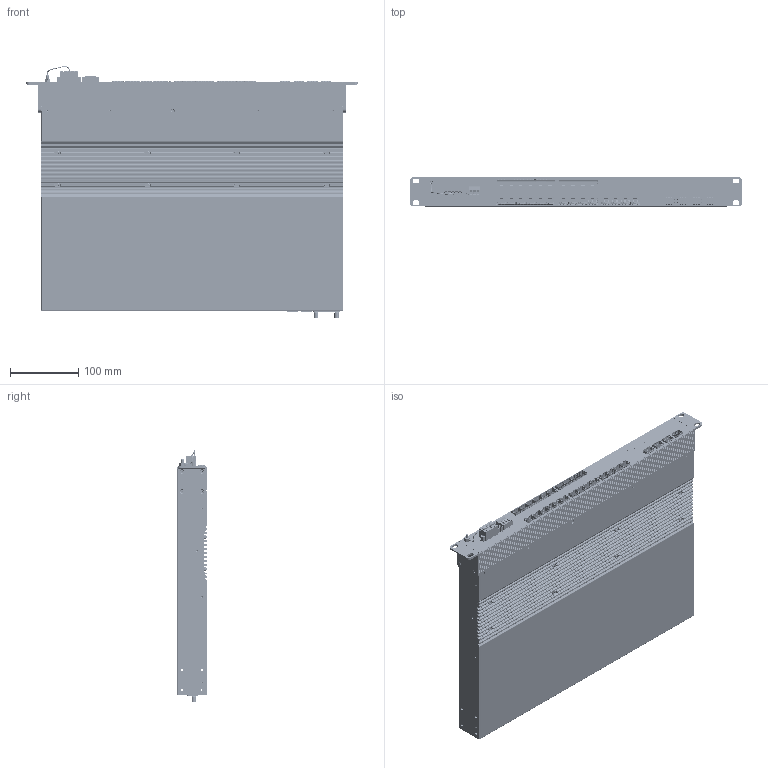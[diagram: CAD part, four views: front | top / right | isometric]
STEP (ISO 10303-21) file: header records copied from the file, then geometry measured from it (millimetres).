
FILE_DESCRIPTION(('TFLEX Exchange Step'),'2;1');
FILE_NAME('STK-EX-06-24x1GSFP-4x10GSFP.stp', '2025-01-30T14:24:54+03:00',('Yuriy Romanov'),('Unknown organisation'),'TFLEX Exchange 2023.2','T-FLEX CAD','Unknown authorisation');
FILE_SCHEMA( ('AUTOMOTIVE_DESIGN { 1 0 10303 214 1 1 1 1 }') );
Length unit declared in the file: millimetre
Products named in the file (1): STK-EX-06-24x1GSFP-4x10GSFP
Bounding box: 486.6 x 43.8 x 368.96 mm (x, y, z)
Volume: 635438.8 mm3; surface area: 942263.3 mm2
Topology: 281 solids, 282 shells, 13828 faces, 40393 edges, 26655 vertices
Faces by surface type: plane 7369, cylinder 5651, cone 428, extrusion 173, sphere 107, bspline 65, torus 35
Full cylindrical faces by diameter (mm): 1 x8, 1.8 x4, 2 x162, 2.459 x1, 2.5 x112, 3 x130, 3.5 x224, 3.85 x3, 3.95 x6, 4 x13, 4.2 x30, 4.4 x2, 4.5 x1, 5 x7, 5.247 x2, 5.4 x48, 5.5 x25, 6 x8, 6.3 x14, 6.8 x3, 8 x1, 10 x1
Entity records: 487764 total; most frequent: CARTESIAN_POINT 110417, ORIENTED_EDGE 80530, DIRECTION 77694, EDGE_CURVE 40265, VERTEX_POINT 26655, AXIS2_PLACEMENT_3D 26135, VECTOR 25424, LINE 25251
